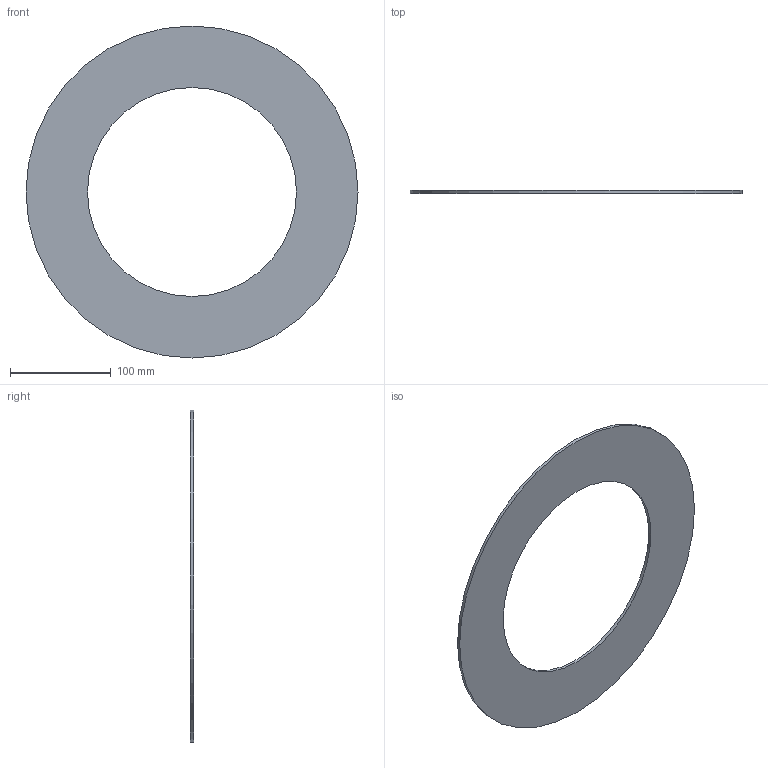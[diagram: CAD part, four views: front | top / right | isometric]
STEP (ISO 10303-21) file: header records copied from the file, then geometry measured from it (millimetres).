
FILE_DESCRIPTION(/* description */ ('Unknown'),/* implementation_level */ '2;1');
FILE_NAME(/* name */ 'GUA.250C',/* time_stamp */ '2021-04-01T12:32:51+02:00',/* author */ ('Unknown'),/* organization */ ('Unknown'),/* preprocessor_version */ 'ST-DEVELOPER v16.7',/* originating_system */ 'Solid Edge',/* authorisation */ 'Unknown');
FILE_SCHEMA (('AUTOMOTIVE_DESIGN {1 0 10303 214 3 1 1}'));
Length unit declared in the file: millimetre
Products named in the file (1): GUA.250C
Bounding box: 329 x 3 x 329 mm (x, y, z)
Volume: 154076.3 mm3; surface area: 107769.2 mm2
Topology: 1 solids, 1 shells, 4 faces, 6 edges, 4 vertices
Faces by surface type: cylinder 2, plane 2
Full cylindrical faces by diameter (mm): 207 x1, 329 x1
Entity records: 118 total; most frequent: DIRECTION 18, CARTESIAN_POINT 13, AXIS2_PLACEMENT_3D 9, ORIENTED_EDGE 8, EDGE_LOOP 8, FACE_BOUND 8, EDGE_CURVE 4, VERTEX_POINT 4
